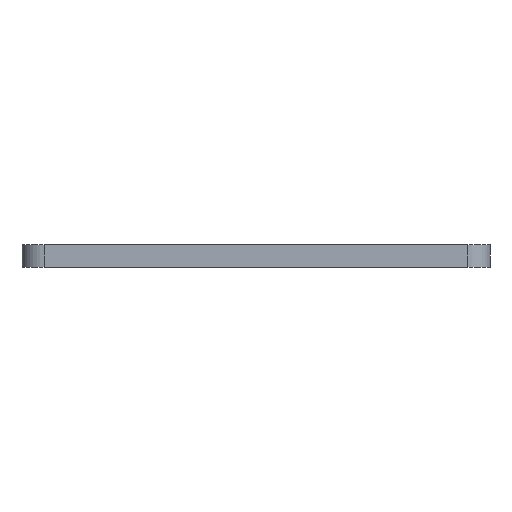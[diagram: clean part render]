
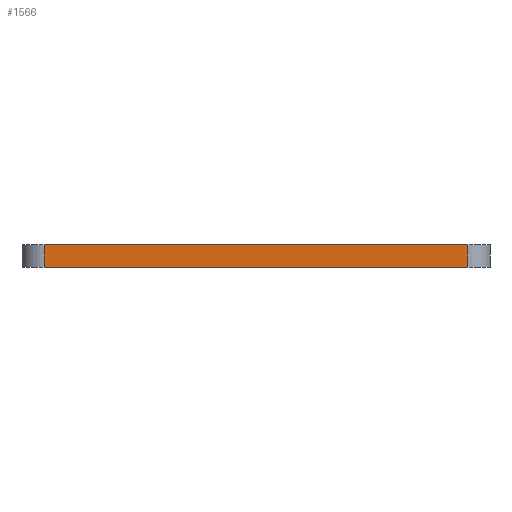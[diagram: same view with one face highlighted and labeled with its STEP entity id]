
A CAD part, front view. The second image highlights one B-rep face of the part: STEP entity #1566.
In plain terms, the highlighted planar face has unit normal (0, -1, 0).
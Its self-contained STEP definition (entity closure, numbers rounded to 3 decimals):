
#44 = PLANE('',#45);
#45 = AXIS2_PLACEMENT_3D('',#46,#47,#48);
#46 = CARTESIAN_POINT('',(-105.,-140.,10.));
#47 = DIRECTION('',(0.,0.,1.));
#48 = DIRECTION('',(1.,0.,0.));
#72 = CYLINDRICAL_SURFACE('',#73,10.);
#73 = AXIS2_PLACEMENT_3D('',#74,#75,#76);
#74 = CARTESIAN_POINT('',(-95.,-130.,0.));
#75 = DIRECTION('',(0.,0.,1.));
#76 = DIRECTION('',(-1.,-0.,0.));
#100 = PLANE('',#101);
#101 = AXIS2_PLACEMENT_3D('',#102,#103,#104);
#102 = CARTESIAN_POINT('',(-105.,-140.,0.));
#103 = DIRECTION('',(0.,0.,1.));
#104 = DIRECTION('',(1.,0.,0.));
#143 = VERTEX_POINT('',#144);
#144 = CARTESIAN_POINT('',(-95.,-140.,10.));
#166 = EDGE_CURVE('',#143,#167,#169,.T.);
#167 = VERTEX_POINT('',#168);
#168 = CARTESIAN_POINT('',(95.,-140.,10.));
#169 = SURFACE_CURVE('',#170,(#174,#181),.PCURVE_S1.);
#170 = LINE('',#171,#172);
#171 = CARTESIAN_POINT('',(-105.,-140.,10.));
#172 = VECTOR('',#173,1.);
#173 = DIRECTION('',(1.,0.,0.));
#174 = PCURVE('',#44,#175);
#175 = DEFINITIONAL_REPRESENTATION('',(#176),#180);
#176 = LINE('',#177,#178);
#177 = CARTESIAN_POINT('',(0.,0.));
#178 = VECTOR('',#179,1.);
#179 = DIRECTION('',(1.,0.));
#180 = ( GEOMETRIC_REPRESENTATION_CONTEXT(2) 
PARAMETRIC_REPRESENTATION_CONTEXT() REPRESENTATION_CONTEXT('2D SPACE',''
  ) );
#181 = PCURVE('',#182,#187);
#182 = PLANE('',#183);
#183 = AXIS2_PLACEMENT_3D('',#184,#185,#186);
#184 = CARTESIAN_POINT('',(-105.,-140.,0.));
#185 = DIRECTION('',(0.,1.,0.));
#186 = DIRECTION('',(0.,0.,1.));
#187 = DEFINITIONAL_REPRESENTATION('',(#188),#192);
#188 = LINE('',#189,#190);
#189 = CARTESIAN_POINT('',(10.,0.));
#190 = VECTOR('',#191,1.);
#191 = DIRECTION('',(0.,1.));
#192 = ( GEOMETRIC_REPRESENTATION_CONTEXT(2) 
PARAMETRIC_REPRESENTATION_CONTEXT() REPRESENTATION_CONTEXT('2D SPACE',''
  ) );
#215 = CYLINDRICAL_SURFACE('',#216,10.);
#216 = AXIS2_PLACEMENT_3D('',#217,#218,#219);
#217 = CARTESIAN_POINT('',(95.,-130.,0.));
#218 = DIRECTION('',(0.,0.,1.));
#219 = DIRECTION('',(1.,0.,-0.));
#882 = VERTEX_POINT('',#883);
#883 = CARTESIAN_POINT('',(-95.,-140.,0.));
#905 = EDGE_CURVE('',#882,#143,#906,.T.);
#906 = SURFACE_CURVE('',#907,(#911,#918),.PCURVE_S1.);
#907 = LINE('',#908,#909);
#908 = CARTESIAN_POINT('',(-95.,-140.,0.));
#909 = VECTOR('',#910,1.);
#910 = DIRECTION('',(0.,0.,1.));
#911 = PCURVE('',#72,#912);
#912 = DEFINITIONAL_REPRESENTATION('',(#913),#917);
#913 = LINE('',#914,#915);
#914 = CARTESIAN_POINT('',(1.571,0.));
#915 = VECTOR('',#916,1.);
#916 = DIRECTION('',(0.,1.));
#917 = ( GEOMETRIC_REPRESENTATION_CONTEXT(2) 
PARAMETRIC_REPRESENTATION_CONTEXT() REPRESENTATION_CONTEXT('2D SPACE',''
  ) );
#918 = PCURVE('',#182,#919);
#919 = DEFINITIONAL_REPRESENTATION('',(#920),#924);
#920 = LINE('',#921,#922);
#921 = CARTESIAN_POINT('',(0.,10.));
#922 = VECTOR('',#923,1.);
#923 = DIRECTION('',(1.,0.));
#924 = ( GEOMETRIC_REPRESENTATION_CONTEXT(2) 
PARAMETRIC_REPRESENTATION_CONTEXT() REPRESENTATION_CONTEXT('2D SPACE',''
  ) );
#987 = EDGE_CURVE('',#882,#988,#990,.T.);
#988 = VERTEX_POINT('',#989);
#989 = CARTESIAN_POINT('',(95.,-140.,0.));
#990 = SURFACE_CURVE('',#991,(#995,#1002),.PCURVE_S1.);
#991 = LINE('',#992,#993);
#992 = CARTESIAN_POINT('',(-105.,-140.,0.));
#993 = VECTOR('',#994,1.);
#994 = DIRECTION('',(1.,0.,0.));
#995 = PCURVE('',#100,#996);
#996 = DEFINITIONAL_REPRESENTATION('',(#997),#1001);
#997 = LINE('',#998,#999);
#998 = CARTESIAN_POINT('',(0.,0.));
#999 = VECTOR('',#1000,1.);
#1000 = DIRECTION('',(1.,0.));
#1001 = ( GEOMETRIC_REPRESENTATION_CONTEXT(2) 
PARAMETRIC_REPRESENTATION_CONTEXT() REPRESENTATION_CONTEXT('2D SPACE',''
  ) );
#1002 = PCURVE('',#182,#1003);
#1003 = DEFINITIONAL_REPRESENTATION('',(#1004),#1008);
#1004 = LINE('',#1005,#1006);
#1005 = CARTESIAN_POINT('',(0.,0.));
#1006 = VECTOR('',#1007,1.);
#1007 = DIRECTION('',(0.,1.));
#1008 = ( GEOMETRIC_REPRESENTATION_CONTEXT(2) 
PARAMETRIC_REPRESENTATION_CONTEXT() REPRESENTATION_CONTEXT('2D SPACE',''
  ) );
#1566 = ADVANCED_FACE('',(#1567),#182,.F.);
#1567 = FACE_BOUND('',#1568,.F.);
#1568 = EDGE_LOOP('',(#1569,#1570,#1571,#1572));
#1569 = ORIENTED_EDGE('',*,*,#987,.F.);
#1570 = ORIENTED_EDGE('',*,*,#905,.T.);
#1571 = ORIENTED_EDGE('',*,*,#166,.T.);
#1572 = ORIENTED_EDGE('',*,*,#1573,.F.);
#1573 = EDGE_CURVE('',#988,#167,#1574,.T.);
#1574 = SURFACE_CURVE('',#1575,(#1579,#1586),.PCURVE_S1.);
#1575 = LINE('',#1576,#1577);
#1576 = CARTESIAN_POINT('',(95.,-140.,0.));
#1577 = VECTOR('',#1578,1.);
#1578 = DIRECTION('',(0.,0.,1.));
#1579 = PCURVE('',#182,#1580);
#1580 = DEFINITIONAL_REPRESENTATION('',(#1581),#1585);
#1581 = LINE('',#1582,#1583);
#1582 = CARTESIAN_POINT('',(0.,200.));
#1583 = VECTOR('',#1584,1.);
#1584 = DIRECTION('',(1.,0.));
#1585 = ( GEOMETRIC_REPRESENTATION_CONTEXT(2) 
PARAMETRIC_REPRESENTATION_CONTEXT() REPRESENTATION_CONTEXT('2D SPACE',''
  ) );
#1586 = PCURVE('',#215,#1587);
#1587 = DEFINITIONAL_REPRESENTATION('',(#1588),#1592);
#1588 = LINE('',#1589,#1590);
#1589 = CARTESIAN_POINT('',(-1.571,0.));
#1590 = VECTOR('',#1591,1.);
#1591 = DIRECTION('',(-0.,1.));
#1592 = ( GEOMETRIC_REPRESENTATION_CONTEXT(2) 
PARAMETRIC_REPRESENTATION_CONTEXT() REPRESENTATION_CONTEXT('2D SPACE',''
  ) );
